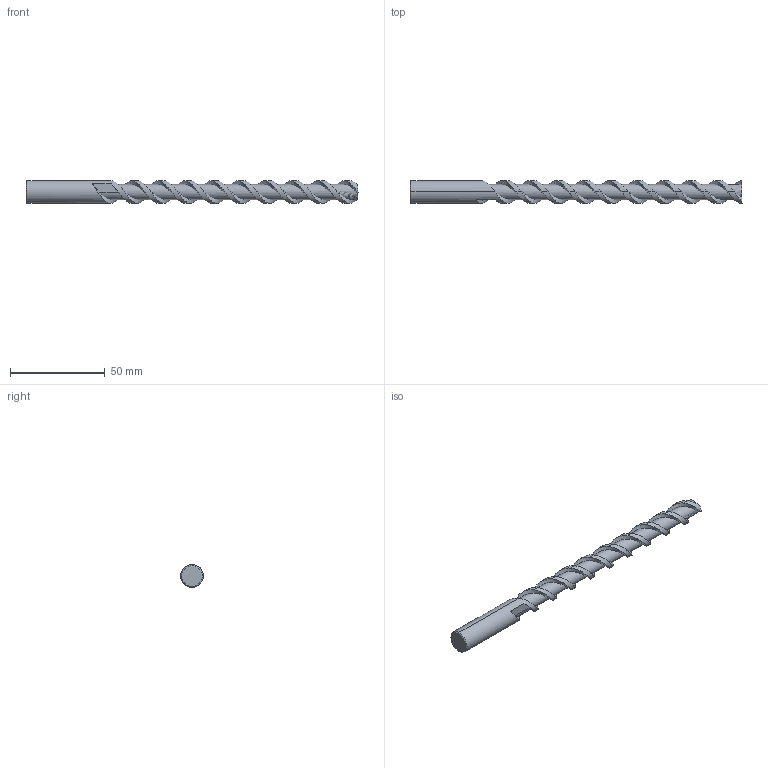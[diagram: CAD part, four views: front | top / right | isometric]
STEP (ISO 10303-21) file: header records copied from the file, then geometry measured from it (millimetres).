
FILE_DESCRIPTION (( 'STEP AP214' ), '1' );
FILE_NAME ('E2122_12_175.STEP', '2013-04-10T07:01:55', ( '' ), ( '' ), 'SwSTEP 2.0', 'SolidWorks 2013', '' );
FILE_SCHEMA (( 'AUTOMOTIVE_DESIGN' ));
Length unit declared in the file: millimetre
Products named in the file (1): E2122_12_175
Bounding box: 175 x 12 x 12 mm (x, y, z)
Volume: 13449.3 mm3; surface area: 6842.2 mm2
Topology: 1 solids, 1 shells, 36 faces, 96 edges, 62 vertices
Faces by surface type: cylinder 20, plane 8, bspline 6, cone 2
Entity records: 8285 total; most frequent: CARTESIAN_POINT 7138, ORIENTED_EDGE 192, DIRECTION 108, EDGE_CURVE 96, VERTEX_POINT 62, UNCERTAINTY_MEASURE_WITH_UNIT 39, MECHANICAL_DESIGN_GEOMETRIC_PRESENTATION_REPRESENTATION 38, PRESENTATION_LAYER_ASSIGNMENT 38
